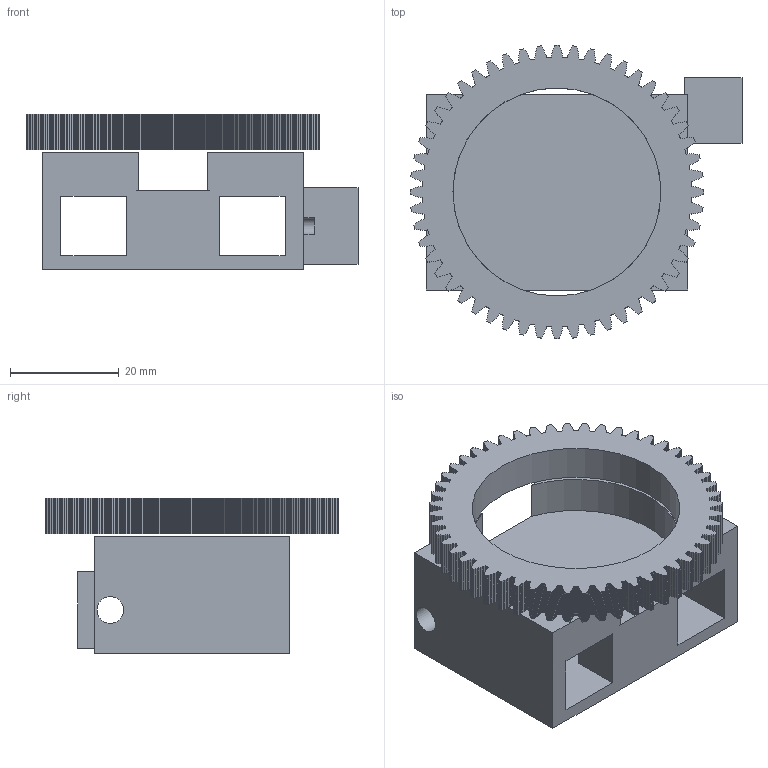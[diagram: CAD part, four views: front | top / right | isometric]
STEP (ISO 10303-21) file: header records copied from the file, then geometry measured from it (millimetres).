
FILE_DESCRIPTION(('Open CASCADE Model'),'2;1');
FILE_NAME('Open CASCADE Shape Model','2026-10-15T19:33:12',('Author'),( 'Open CASCADE'),'Open CASCADE STEP processor 7.9','Open CASCADE 7.9' ,'Unknown');
FILE_SCHEMA(('AUTOMOTIVE_DESIGN { 1 0 10303 214 1 1 1 1 }'));
Length unit declared in the file: millimetre
Products named in the file (3): Open CASCADE STEP translator 7.9 8; Open CASCADE STEP translator 7.9 8.1; Open CASCADE STEP translator 7.9 8.2
Assembly tree (2 placements, depth 2):
  Open CASCADE STEP translator 7.9 8
    Open CASCADE STEP translator 7.9 8.1
    Open CASCADE STEP translator 7.9 8.2
Bounding box: 61 x 54 x 28.5 mm (x, y, z)
Volume: 22293.3 mm3; surface area: 17048 mm2
Topology: 2 solids, 2 shells, 1233 faces, 3696 edges, 2464 vertices
Faces by surface type: plane 1223, cylinder 10
Full cylindrical faces by diameter (mm): 3 x2, 4.9 x3, 8.2 x1, 25 x1, 38.2 x1
Entity records: 88814 total; most frequent: CARTESIAN_POINT 14964, DIRECTION 13500, LINE 10968, VECTOR 10968, ORIENTED_EDGE 7392, PCURVE 7392, DEFINITIONAL_REPRESENTATION 7392, EDGE_CURVE 3696
